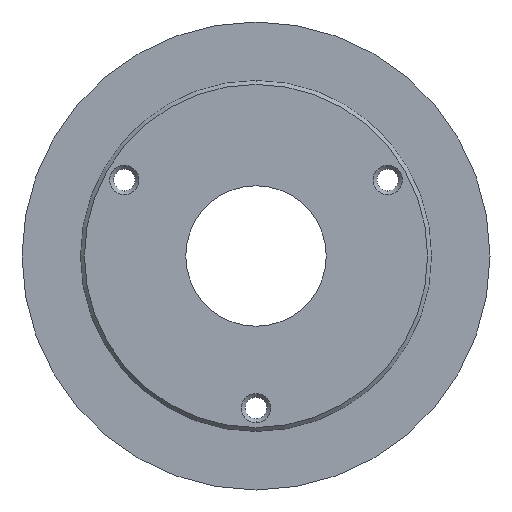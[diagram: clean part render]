
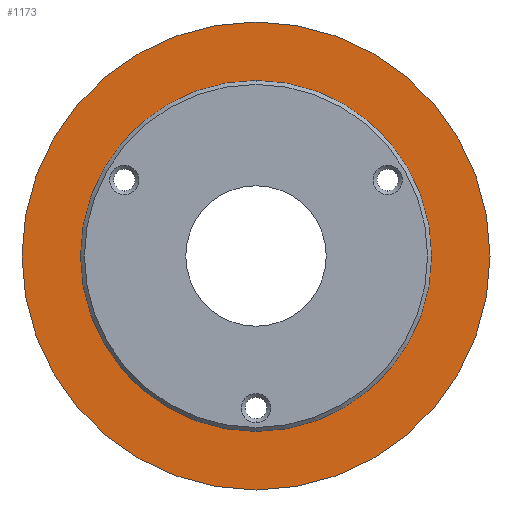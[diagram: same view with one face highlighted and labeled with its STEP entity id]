
A CAD part, front view. The second image highlights one B-rep face of the part: STEP entity #1173.
In plain terms, the highlighted planar face has unit normal (0, -1, 0).
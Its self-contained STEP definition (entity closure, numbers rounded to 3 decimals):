
#23 = EDGE_CURVE ( 'NONE', #113, #268, #621, .T. ) ;
#25 = CARTESIAN_POINT ( 'NONE',  ( 0., 9., 45. ) ) ;
#64 = PLANE ( 'NONE',  #1193 ) ;
#72 = EDGE_CURVE ( 'NONE', #268, #113, #82, .T. ) ;
#76 = DIRECTION ( 'NONE',  ( 0., 0., 1. ) ) ;
#82 = CIRCLE ( 'NONE', #686, 60. ) ;
#113 = VERTEX_POINT ( 'NONE', #1097 ) ;
#142 = AXIS2_PLACEMENT_3D ( 'NONE', #535, #407, #257 ) ;
#209 = DIRECTION ( 'NONE',  ( 0., 1., 0. ) ) ;
#213 = CIRCLE ( 'NONE', #142, 45. ) ;
#257 = DIRECTION ( 'NONE',  ( 0., 0., -1. ) ) ;
#261 = DIRECTION ( 'NONE',  ( 0., -1., 0. ) ) ;
#268 = VERTEX_POINT ( 'NONE', #610 ) ;
#276 = DIRECTION ( 'NONE',  ( 0., 0., -1. ) ) ;
#390 = FACE_OUTER_BOUND ( 'NONE', #824, .T. ) ;
#407 = DIRECTION ( 'NONE',  ( 0., -1., 0. ) ) ;
#423 = CARTESIAN_POINT ( 'NONE',  ( 0., 9., 0. ) ) ;
#471 = CARTESIAN_POINT ( 'NONE',  ( -45., 9., 0. ) ) ;
#474 = EDGE_LOOP ( 'NONE', ( #1004, #800 ) ) ;
#510 = EDGE_CURVE ( 'NONE', #899, #571, #213, .T. ) ;
#535 = CARTESIAN_POINT ( 'NONE',  ( 0., 9., 0. ) ) ;
#551 = CARTESIAN_POINT ( 'NONE',  ( 0., 9., 0. ) ) ;
#571 = VERTEX_POINT ( 'NONE', #25 ) ;
#601 = CARTESIAN_POINT ( 'NONE',  ( 0., 9., -45. ) ) ;
#610 = CARTESIAN_POINT ( 'NONE',  ( 0., 9., 60. ) ) ;
#621 = CIRCLE ( 'NONE', #818, 60. ) ;
#671 = DIRECTION ( 'NONE',  ( 0., -1., 0. ) ) ;
#686 = AXIS2_PLACEMENT_3D ( 'NONE', #1121, #812, #1154 ) ;
#706 = DIRECTION ( 'NONE',  ( 0., 0., -1. ) ) ;
#798 = EDGE_CURVE ( 'NONE', #571, #899, #910, .T. ) ;
#800 = ORIENTED_EDGE ( 'NONE', *, *, #798, .F. ) ;
#812 = DIRECTION ( 'NONE',  ( 0., -1., 0. ) ) ;
#818 = AXIS2_PLACEMENT_3D ( 'NONE', #551, #671, #706 ) ;
#824 = EDGE_LOOP ( 'NONE', ( #948, #859 ) ) ;
#859 = ORIENTED_EDGE ( 'NONE', *, *, #72, .T. ) ;
#899 = VERTEX_POINT ( 'NONE', #601 ) ;
#910 = CIRCLE ( 'NONE', #1137, 45. ) ;
#948 = ORIENTED_EDGE ( 'NONE', *, *, #23, .T. ) ;
#1004 = ORIENTED_EDGE ( 'NONE', *, *, #510, .F. ) ;
#1097 = CARTESIAN_POINT ( 'NONE',  ( 0., 9., -60. ) ) ;
#1106 = FACE_BOUND ( 'NONE', #474, .T. ) ;
#1121 = CARTESIAN_POINT ( 'NONE',  ( 0., 9., 0. ) ) ;
#1137 = AXIS2_PLACEMENT_3D ( 'NONE', #423, #261, #276 ) ;
#1154 = DIRECTION ( 'NONE',  ( 0., 0., -1. ) ) ;
#1173 = ADVANCED_FACE ( 'NONE', ( #1106, #390 ), #64, .F. ) ;
#1193 = AXIS2_PLACEMENT_3D ( 'NONE', #471, #209, #76 ) ;
